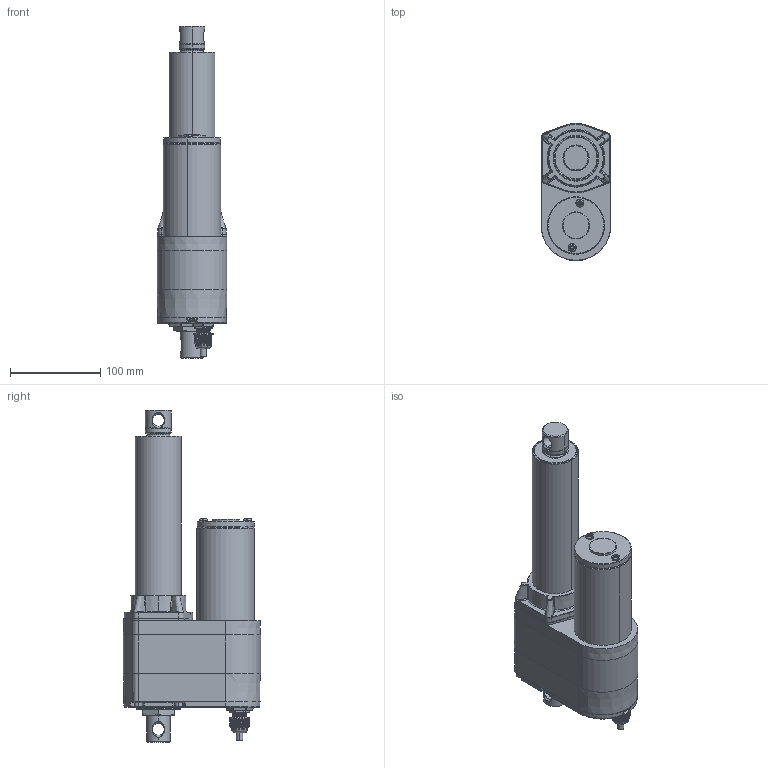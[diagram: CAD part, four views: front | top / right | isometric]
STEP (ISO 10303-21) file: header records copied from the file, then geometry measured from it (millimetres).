
FILE_DESCRIPTION (( 'STEP AP203' ), '1' );
FILE_NAME ('ID10-B-102-POT-IP69K.STEP', '2022-10-05T01:01:08', ( '' ), ( '' ), 'SwSTEP 2.0', 'SolidWorks 2020', '' );
FILE_SCHEMA (( 'CONFIG_CONTROL_DESIGN' ));
Length unit declared in the file: millimetre
Products named in the file (3): ID10-B-102-POT-IP69K; ID10-B-POT-1-IP69K; ID10-B-POT-2-IP69K
Assembly tree (2 placements, depth 2):
  ID10-B-102-POT-IP69K
    ID10-B-POT-1-IP69K
    ID10-B-POT-2-IP69K
Bounding box: 77.3 x 151.8 x 367.5 mm (x, y, z)
Volume: 112319.8 mm3; surface area: 175579.5 mm2
Topology: 23 solids, 24 shells, 2295 faces, 5914 edges, 3703 vertices
Faces by surface type: plane 1108, cylinder 661, bspline 259, cone 137, torus 106, sphere 24
Entity records: 83163 total; most frequent: CARTESIAN_POINT 31124, ORIENTED_EDGE 11760, DIRECTION 9750, EDGE_CURVE 5880, VERTEX_POINT 3703, AXIS2_PLACEMENT_3D 3616, VECTOR 2518, LINE 2518
